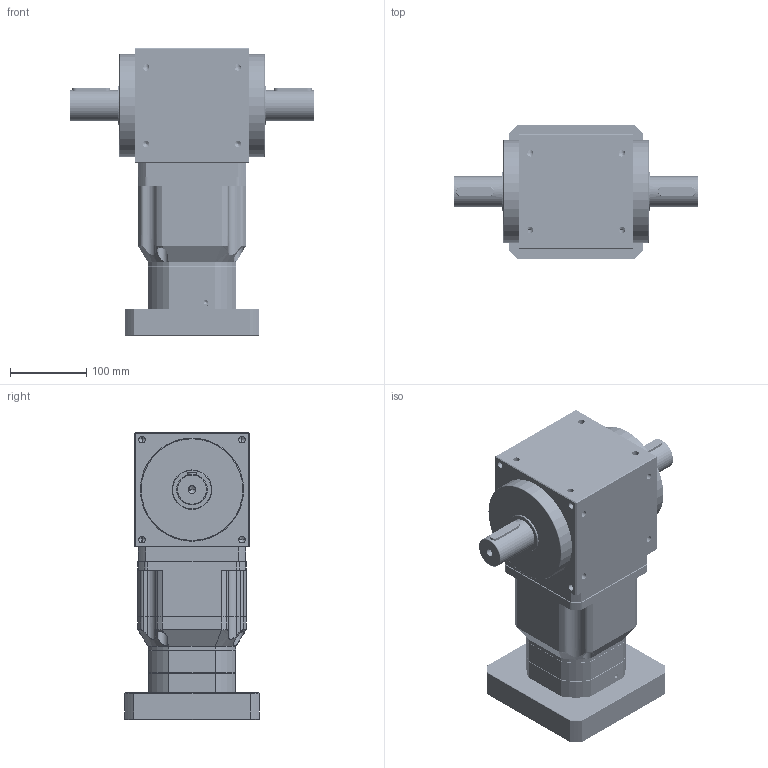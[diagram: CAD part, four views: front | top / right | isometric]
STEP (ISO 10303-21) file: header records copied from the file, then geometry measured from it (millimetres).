
FILE_DESCRIPTION (( 'STEP AP214' ), '1' );
FILE_NAME ('PAW150A-L2-2P(12-100) 35-114.3-200-M12.STEP', '2021-04-24T08:19:51', ( 'Microsoft' ), ( 'Microsoft China' ), 'SwSTEP 2.0', 'SolidWorks 2016', '' );
FILE_SCHEMA (( 'AUTOMOTIVE_DESIGN' ));
Length unit declared in the file: millimetre
Products named in the file (38): Spring lock washers--Normal type GB_GB_FASTENER_WASHER_SW 6; Circlips for hole--Type B GB_GB_CONNECTING_PIECE_RINGS_CHB 80; Spring lock washers--Normal type GB_GB_FASTENER_WASHER_SW 8; Plain parallel keys_GB_CONNECTING_PIECE_KEYS_CSK C6X18; Hexagon socket head cap screws GB_GB_FASTENER_SCREWS_HSHCS M8X30-N; 俴陎謫5; Hexagon socket head cap screws GB_GB_FASTENER_SCREWS_HSHCS M8X25-N; 俴陎謫菜え13.6X27; Hex socket set screws with flat point GB_GB_FASTENER_SCREWS_HSFP M12X16-N; 幗渀粣創13.513X18.513; Plain parallel keys_GB_CONNECTING_PIECE_KEYS_CSK C4X16; 俴陎粣13.513; Circlips for shaft--Type A large GB_GB_CONNECTING_PIECE_RING_RRA 50; 怮栠謫5; Hexagon socket countersunk head screws GB_GB_FASTENER_SCREWS_HSCHS M5X12-N; Circlips for hole--Type B GB_GB_CONNECTING_PIECE_RINGS_CHB 110; 粣創揤啣80; 蚐猾60X110X12; 115怮栠謫5A; Deep groove ball bearings GB_Rolling bearings 61821 GB 276-94; Deep groove ball bearings GB_Rolling bearings 6010 GB 276-94; Deep groove ball bearings GB_Rolling bearings 6212 GB 276-94; 媼撰笢潔楊擘; 怀堤粣5; Circlips for holes--Type A GB_GB_CONNECTING_PIECE_RING_RRH 62; 一级齿圈Z108; 115幗渀粣創10.347X15.347X20; 115俴陎謫5A; PAW150A-L2-2P(12-100) 35-114.3-200-M12; 115俴陎謫菜え10.5; PAW150A-L1-2P--35-114.3-200-M12; 115俴陎粣10.347X33.5; 115K114.3萇儂楊擘; Deep groove ball bearings GB_Rolling bearings 61816 GB 276-94; 115薊粣ん35K18; 俴陎殤5A-5; Hexagon socket head cap screws GB_GB_FASTENER_SCREWS_HSHCS M6X25-N; 二级齿圈Z84
Assembly tree (85 placements, depth 2):
  PAW150A-L2-2P(12-100) 35-114.3-200-M12
    一级齿圈Z108
    怀堤粣5
    Deep groove ball bearings GB_Rolling bearings 6212 GB 276-94
    Deep groove ball bearings GB_Rolling bearings 61821 GB 276-94
    蚐猾60X110X12
    Circlips for hole--Type B GB_GB_CONNECTING_PIECE_RINGS_CHB 110
    怮栠謫5
    俴陎粣13.513  x3
    幗渀粣創13.513X18.513  x3
    俴陎謫菜え13.6X27  x6
    俴陎謫5  x3
    Plain parallel keys_GB_CONNECTING_PIECE_KEYS_CSK C6X18
    Circlips for hole--Type B GB_GB_CONNECTING_PIECE_RINGS_CHB 80
    二级齿圈Z84
    俴陎殤5A-5
    Deep groove ball bearings GB_Rolling bearings 61816 GB 276-94
    115俴陎粣10.347X33.5  x3
    115俴陎謫菜え10.5  x6
    115俴陎謫5A  x3
    115幗渀粣創10.347X15.347X20  x3
    Circlips for holes--Type A GB_GB_CONNECTING_PIECE_RING_RRH 62
    媼撰笢潔楊擘
    Deep groove ball bearings GB_Rolling bearings 6010 GB 276-94
    115怮栠謫5A
    粣創揤啣80
    Hexagon socket countersunk head screws GB_GB_FASTENER_SCREWS_HSCHS M5X12-N  x6
    Circlips for shaft--Type A large GB_GB_CONNECTING_PIECE_RING_RRA 50
    Plain parallel keys_GB_CONNECTING_PIECE_KEYS_CSK C4X16
    Hex socket set screws with flat point GB_GB_FASTENER_SCREWS_HSFP M12X16-N  x2
    Hexagon socket head cap screws GB_GB_FASTENER_SCREWS_HSHCS M8X25-N  x5
    Hexagon socket head cap screws GB_GB_FASTENER_SCREWS_HSHCS M8X30-N  x4
    Spring lock washers--Normal type GB_GB_FASTENER_WASHER_SW 8  x8
    Spring lock washers--Normal type GB_GB_FASTENER_WASHER_SW 6  x4
    Hexagon socket head cap screws GB_GB_FASTENER_SCREWS_HSHCS M6X25-N  x4
    115薊粣ん35K18
    115K114.3萇儂楊擘
    PAW150A-L1-2P--35-114.3-200-M12
Bounding box: 320 x 176 x 376 mm (x, y, z)
Volume: 7663647.2 mm3; surface area: 903656.1 mm2
Topology: 85 solids, 85 shells, 3038 faces, 9222 edges, 5732 vertices
Faces by surface type: cylinder 923, bspline 891, plane 753, cone 426, torus 45
Entity records: 136705 total; most frequent: CARTESIAN_POINT 50065, ORIENTED_EDGE 14544, DIRECTION 10294, EDGE_CURVE 7272, VERTEX_POINT 4798, AXIS2_PLACEMENT_3D 4371, CIRCLE 2764, EDGE_LOOP 2642
